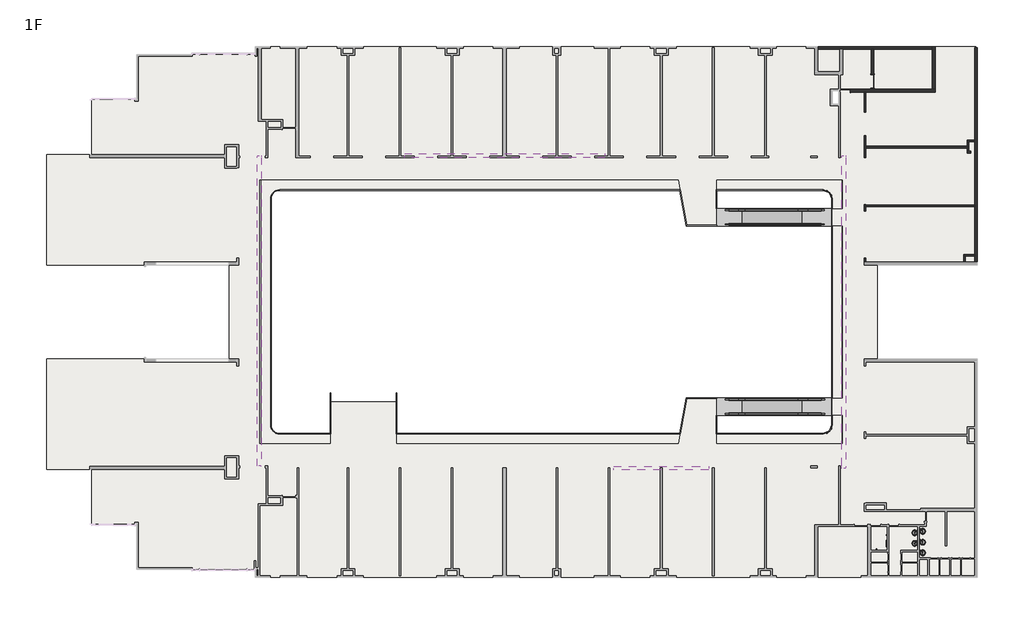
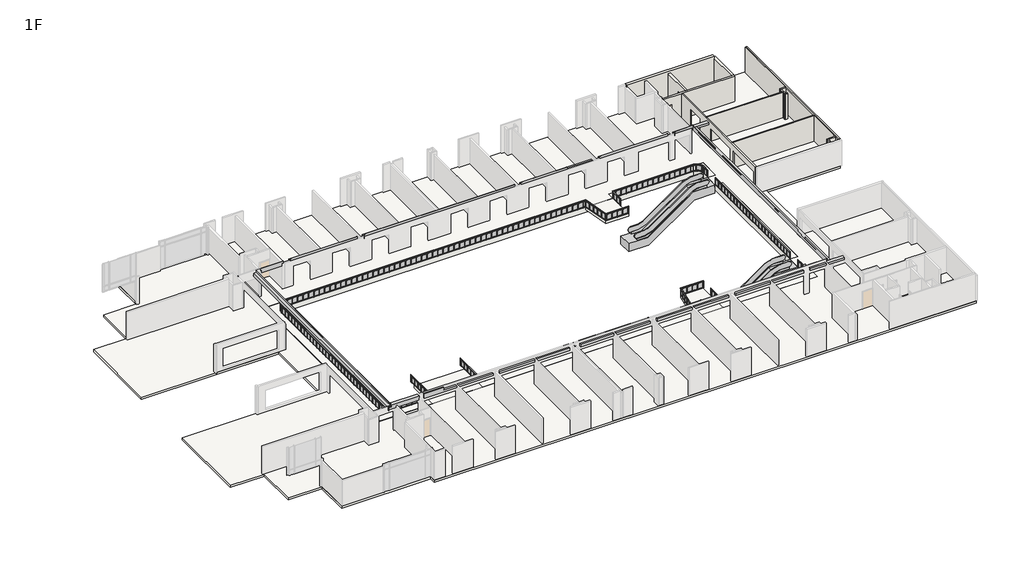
# One storey, part 5 of 5: 13 walls, 9 flow terminals, 5 railings, 4 beams, 2 proxies, 2 slabs, 1 door.
"""IFC4 building model written with IfcOpenShell, lengths in millimetres."""

from ifc_helpers import new_model, si_unit, point, frame, frame_2d, origin, place, context, project, spatial, polyline, circle_curve, trimmed, segment, composite_curve, outline, extrude, faceted_brep, transform, mapped, element, save
from components import escalator_escalator_gf_9d4ecd68, escalator_escalator_gf_c0f03a61, m_single_flush_d_1200x2150_ab82cfb8, grab_rail_horizontal_grab_bar_horizontal_3488bc9b, grab_rail_vertical_grab_rail_vertical_4faa361f, sink_bathroom_2_sink_bathroom_2_b4141ae8, sink_bathroom_2_sink_bathroom_2_ad220687, handrail_glass_panel_4cdfce9a, handrail_glass_panel_b0fdf184, handrail_glass_panel_57716c22, handrail_glass_panel_58cbfc2e, handrail_glass_panel_26aa19e9, handrail_glass_panel_251127b2, handrail_glass_panel_52af69f2

model = new_model("IFC4")

# Units and contexts
model_context = context("Model", 3, world=origin())
ifc_project = project(units=[si_unit("LENGTHUNIT", "METRE", prefix="MILLI")], contexts=[model_context])

# Site, building, storey
site = spatial("IfcSite", under=ifc_project)
building = spatial("IfcBuilding", under=site)
storey = spatial("IfcBuildingStorey", under=building, Name="1F", Elevation=4650.0)

# Beams
placement = place(None, origin())
element("IfcBeam", 1, ObjectType="M_Concrete-Rectangular Beam : 350 x 550mm", at=placement, inside=storey, context=model_context, shape_type="Brep", body=[
    faceted_brep([(28787.4134101, 11409.3851347, 8100.0), (28787.4134101, 11397.3851347, 8100.0), (30974.4134101, 11397.3851347, 8100.0), (30974.4134101, 11409.3851347, 8100.0), (28787.4134101, 11397.3851347, 7550.0), (30962.4134101, 11397.3851347, 7550.0), (31312.4134101, 11397.3851347, 7550.0), (32787.4134101, 11397.3851347, 7550.0), (32787.4134101, 11397.3851347, 7825.0), (31312.4134101, 11397.3851347, 7825.0), (30974.4134101, 11397.3851347, 7825.0), (30974.4134101, 11397.3851347, 8025.0), (28787.4134101, 11747.3851347, 7550.0), (32787.4134101, 11747.3851347, 7550.0), (28787.4134101, 11747.3851347, 7825.0), (32787.4134101, 11747.3851347, 7825.0), (28787.4134101, 11409.3851347, 7825.0), (30974.4134101, 11409.3851347, 7825.0)], [[[0, 1, 2, 3]], [[1, 4, 5, 6, 7, 8, 9, 10, 11, 2]], [[4, 12, 13, 7, 6, 5]], [[13, 12, 14, 15]], [[4, 1, 0, 16, 14, 12]], [[7, 13, 15, 8]], [[17, 3, 2, 11, 10]], [[16, 17, 10, 9, 8, 15, 14]], [[3, 17, 16, 0]]]),
    faceted_brep([(27987.4134101, 11397.3851347, 8100.0), (27987.4134101, 11397.3851347, 7550.0), (27987.4134101, 11747.3851347, 7550.0), (27987.4134101, 11747.3851347, 7825.0), (27987.4134101, 11409.3851347, 7825.0), (27987.4134101, 11409.3851347, 8100.0), (19957.4134101, 11397.3851347, 8100.0), (19957.4134101, 11409.3851347, 8100.0), (19957.4134101, 11397.3851347, 7550.0), (19957.4134101, 11747.3851347, 7550.0), (19957.4134101, 11747.3851347, 7825.0), (19957.4134101, 11409.3851347, 7825.0)], [[[0, 1, 2, 3, 4, 5]], [[6, 0, 5, 7]], [[1, 0, 6, 8]], [[2, 1, 8, 9]], [[2, 9, 10, 3]], [[8, 6, 7, 11, 10, 9]], [[4, 11, 7, 5]], [[11, 4, 3, 10]]]),
    faceted_brep([(19157.4134101, 11397.3851347, 7550.0), (19157.4134101, 11747.3851347, 7550.0), (19157.4134101, 11747.3851347, 7825.0), (19157.4134101, 11397.3851347, 7825.0), (10727.4134101, 11409.3851347, 8100.0), (10727.4134101, 11397.3851347, 8100.0), (16104.74274, 11397.3851347, 8100.0), (16102.6351768, 11409.3851347, 8100.0), (10727.4134101, 11397.3851347, 7550.0), (16104.74274, 11397.3851347, 7825.0), (10727.4134101, 11747.3851347, 7550.0), (10727.4134101, 11747.3851347, 7825.0), (10727.4134101, 11409.3851347, 7825.0), (16102.6351768, 11409.3851347, 7825.0)], [[[0, 1, 2, 3]], [[4, 5, 6, 7]], [[8, 0, 3, 9, 6, 5]], [[1, 0, 8, 10]], [[1, 10, 11, 2]], [[8, 5, 4, 12, 11, 10]], [[7, 13, 12, 4]], [[13, 7, 6, 9]], [[13, 9, 3, 2, 11, 12]]]),
    faceted_brep([(9927.4134101, 11397.3851347, 8100.0), (9927.4134101, 11397.3851347, 7550.0), (9927.4134101, 11747.3851347, 7550.0), (9927.4134101, 11747.3851347, 7825.0), (9927.4134101, 11409.3851347, 7825.0), (9927.4134101, 11409.3851347, 8100.0), (-7807.5865899, 11397.3851347, 8100.0), (-7807.5865899, 11409.3851347, 8100.0), (-7807.5865899, 11397.3851347, 7550.0), (-7807.5865899, 11747.3851347, 7550.0), (-7807.5865899, 11747.3851347, 7825.0), (-7807.5865899, 11409.3851347, 7825.0)], [[[0, 1, 2, 3, 4, 5]], [[6, 0, 5, 7]], [[1, 0, 6, 8]], [[2, 1, 8, 9]], [[2, 9, 10, 3]], [[8, 6, 7, 11, 10, 9]], [[11, 4, 3, 10]], [[4, 11, 7, 5]]]),
    faceted_brep([(-8607.5865899, 11397.3851347, 8100.0), (-8607.5865899, 11397.3851347, 7550.0), (-8607.5865899, 11747.3851347, 7550.0), (-8607.5865899, 11747.3851347, 7825.0), (-8607.5865899, 11409.3851347, 7825.0), (-8607.5865899, 11409.3851347, 8100.0), (-16522.5865899, 11397.3851347, 8100.0), (-16522.5865899, 11409.3851347, 8100.0), (-16522.5865899, 11397.3851347, 7550.0), (-16522.5865899, 11747.3851347, 7550.0), (-16522.5865899, 11747.3851347, 7825.0), (-16522.5865899, 11409.3851347, 7825.0)], [[[0, 1, 2, 3, 4, 5]], [[6, 0, 5, 7]], [[1, 0, 6, 8]], [[2, 1, 8, 9]], [[2, 9, 10, 3]], [[8, 6, 7, 11, 10, 9]], [[11, 4, 3, 10]], [[4, 11, 7, 5]]]),
    faceted_brep([(-17322.5865899, 11397.3851347, 8100.0), (-17322.5865899, 11397.3851347, 7550.0), (-17322.5865899, 11747.3851347, 7550.0), (-17322.5865899, 11747.3851347, 7825.0), (-17322.5865899, 11409.3851347, 7825.0), (-17322.5865899, 11409.3851347, 8100.0), (-20551.0865899, 11409.3851347, 8100.0), (-20551.0865899, 11397.3851347, 8100.0), (-20551.0865899, 11397.3851347, 8025.0), (-20551.0865899, 11397.3851347, 7825.0), (-20887.5865899, 11397.3851347, 7825.0), (-22525.5865899, 11397.3851347, 7825.0), (-22525.5865899, 11397.3851347, 7550.0), (-20887.5865899, 11397.3851347, 7550.0), (-20537.5865899, 11397.3851347, 7550.0), (-22525.5865899, 11747.3851347, 7550.0), (-22525.5865899, 11747.3851347, 7825.0), (-20551.0865899, 11409.3851347, 7825.0)], [[[0, 1, 2, 3, 4, 5]], [[0, 5, 6, 7]], [[1, 0, 7, 8, 9, 10, 11, 12, 13, 14]], [[2, 1, 14, 13, 12, 15]], [[2, 15, 16, 3]], [[12, 11, 16, 15]], [[9, 17, 4, 3, 16, 11, 10]], [[6, 17, 9, 8, 7]], [[17, 6, 5, 4]]]),
])
element("IfcBeam", 2, ObjectType="M_Concrete-Rectangular Beam : 350 x 550mm", at=placement, inside=storey, context=model_context, shape_type="Brep", body=[
    faceted_brep([(30962.4134101, -15972.6148653, 8025.0), (30974.4134101, -15972.6148653, 8025.0), (30974.4134101, -11484.6148653, 8025.0), (30962.4134101, -11484.6148653, 8025.0), (30962.4134101, 11572.3851347, 7475.0), (30962.4134101, 11397.3851347, 7475.0), (30962.4134101, -15972.6148653, 7475.0), (30962.4134101, -16147.6148653, 7475.0), (30962.4134101, -16147.6148653, 7550.0), (30962.4134101, -15972.6148653, 7550.0), (30962.4134101, -11484.6148653, 7825.0), (30962.4134101, -9934.6148653, 7825.0), (30962.4134101, -9934.6148653, 8025.0), (30962.4134101, 5335.3851347, 8025.0), (30962.4134101, 5335.3851347, 7825.0), (30962.4134101, 6885.3851347, 7825.0), (30962.4134101, 6885.3851347, 8025.0), (30962.4134101, 11397.3851347, 8025.0), (30962.4134101, 11397.3851347, 7550.0), (30962.4134101, 11572.3851347, 7550.0), (31312.4134101, 11572.3851347, 7475.0), (31312.4134101, -16147.6148653, 7475.0), (31312.4134101, 11572.3851347, 7550.0), (31312.4134101, 11397.3851347, 7550.0), (31312.4134101, 11397.3851347, 7825.0), (31312.4134101, -15972.6148653, 7825.0), (31312.4134101, -15972.6148653, 7550.0), (31312.4134101, -16147.6148653, 7550.0), (30974.4134101, 11397.3851347, 8025.0), (30974.4134101, 11397.3851347, 7825.0), (30974.4134101, -15972.6148653, 7825.0), (30974.4134101, 5335.3851347, 7825.0), (30974.4134101, -9934.6148653, 7825.0), (30974.4134101, -11484.6148653, 7825.0), (30974.4134101, 6885.3851347, 7825.0), (30974.4134101, -9934.6148653, 8025.0), (30974.4134101, 5335.3851347, 8025.0), (30974.4134101, 6885.3851347, 8025.0)], [[[0, 1, 2, 3]], [[4, 5, 6, 7, 8, 9, 0, 3, 10, 11, 12, 13, 14, 15, 16, 17, 18, 19]], [[7, 6, 5, 4, 20, 21]], [[21, 20, 22, 23, 24, 25, 26, 27]], [[20, 4, 19, 22]], [[7, 21, 27, 8]], [[23, 18, 17, 28, 29, 24]], [[18, 23, 22, 19]], [[9, 26, 25, 30, 1, 0]], [[26, 9, 8, 27]], [[31, 32, 11, 10, 33, 30, 25, 24, 29, 34, 15, 14]], [[30, 33, 2, 1]], [[33, 10, 3, 2]], [[11, 32, 35, 12]], [[32, 31, 36, 35]], [[31, 14, 13, 36]], [[15, 34, 37, 16]], [[34, 29, 28, 37]], [[13, 12, 35, 36]], [[28, 17, 16, 37]]]),
])
element("IfcBeam", 3, ObjectType="M_Concrete-Rectangular Beam : 350 x 550mm", at=placement, inside=storey, context=model_context, shape_type="Brep", body=[
    faceted_brep([(32769.9134101, -16322.6148653, 7550.0), (32769.9134101, -15972.6148653, 7550.0), (32769.9134101, -15972.6148653, 7825.0), (32769.9134101, -16322.6148653, 7825.0), (28787.4134101, -15972.6148653, 8100.0), (28787.4134101, -15972.6148653, 7550.0), (28787.4134101, -16322.6148653, 7550.0), (28787.4134101, -16322.6148653, 7825.0), (28787.4134101, -15984.6148653, 7825.0), (28787.4134101, -15984.6148653, 8100.0), (30974.4134101, -15984.6148653, 8100.0), (30974.4134101, -15972.6148653, 8100.0), (31312.4134101, -15972.6148653, 7550.0), (30962.4134101, -15972.6148653, 7550.0), (30974.4134101, -15972.6148653, 8025.0), (30974.4134101, -15972.6148653, 7825.0), (31312.4134101, -15972.6148653, 7825.0), (30974.4134101, -15984.6148653, 7825.0)], [[[0, 1, 2, 3]], [[4, 5, 6, 7, 8, 9]], [[4, 9, 10, 11]], [[1, 12, 13, 5, 4, 11, 14, 15, 16, 2]], [[1, 0, 6, 5, 13, 12]], [[6, 0, 3, 7]], [[10, 17, 15, 14, 11]], [[15, 17, 8, 7, 3, 2, 16]], [[17, 10, 9, 8]]]),
    faceted_brep([(-17322.5865899, -15972.6148653, 8100.0), (-20537.5865899, -15972.6148653, 8100.0), (-20551.0865899, -15986.1148653, 8100.0), (-20551.0865899, -16322.6148653, 8100.0), (-17322.5865899, -16322.6148653, 8100.0), (-20537.5865899, -15972.6148653, 7550.0), (-17322.5865899, -15972.6148653, 7550.0), (-20887.5865899, -16322.6148653, 7550.0), (-17322.5865899, -16322.6148653, 7550.0), (-20551.0865899, -16322.6148653, 7825.0), (-20887.5865899, -16322.6148653, 7825.0), (-20667.5865899, -16102.6148653, 7825.0), (-20551.0865899, -15986.1148653, 7825.0), (-20551.0865899, -15986.1148653, 8025.0)], [[[0, 1, 2, 3, 4]], [[5, 1, 0, 6]], [[7, 5, 6, 8]], [[7, 8, 4, 3, 9, 10]], [[1, 5, 7, 10, 11, 12, 13, 2]], [[0, 4, 8, 6]], [[9, 12, 11, 10]], [[12, 9, 3, 2, 13]]]),
    faceted_brep([(27987.4134101, -15972.6148653, 7550.0), (27987.4134101, -15972.6148653, 8100.0), (27987.4134101, -15984.6148653, 8100.0), (27987.4134101, -15984.6148653, 7825.0), (27987.4134101, -16322.6148653, 7825.0), (27987.4134101, -16322.6148653, 7550.0), (19957.4134101, -15972.6148653, 8100.0), (19957.4134101, -15972.6148653, 7550.0), (19957.4134101, -16322.6148653, 7550.0), (19957.4134101, -16322.6148653, 7825.0), (19957.4134101, -15984.6148653, 7825.0), (19957.4134101, -15984.6148653, 8100.0)], [[[0, 1, 2, 3, 4, 5]], [[6, 7, 8, 9, 10, 11]], [[1, 6, 11, 2]], [[1, 0, 7, 6]], [[0, 5, 8, 7]], [[8, 5, 4, 9]], [[10, 3, 2, 11]], [[3, 10, 9, 4]]]),
    faceted_brep([(19157.4134101, -16322.6148653, 7550.0), (19157.4134101, -15972.6148653, 7550.0), (19157.4134101, -15972.6148653, 7825.0), (19157.4134101, -16322.6148653, 7825.0), (10727.4134101, -15972.6148653, 8100.0), (10727.4134101, -15972.6148653, 7550.0), (10727.4134101, -16322.6148653, 7550.0), (10727.4134101, -16322.6148653, 7825.0), (10727.4134101, -15984.6148653, 7825.0), (10727.4134101, -15984.6148653, 8100.0), (16102.6351768, -15984.6148653, 8100.0), (16104.7511006, -15972.6148653, 8100.0), (16104.7511006, -15972.6148653, 7825.0), (16102.6351768, -15984.6148653, 7825.0)], [[[0, 1, 2, 3]], [[4, 5, 6, 7, 8, 9]], [[4, 9, 10, 11]], [[1, 5, 4, 11, 12, 2]], [[1, 0, 6, 5]], [[6, 0, 3, 7]], [[10, 13, 12, 11]], [[12, 13, 8, 7, 3, 2]], [[13, 10, 9, 8]]]),
    faceted_brep([(9927.4134101, -15972.6148653, 7550.0), (9927.4134101, -15972.6148653, 8100.0), (9927.4134101, -15984.6148653, 8100.0), (9927.4134101, -15984.6148653, 7825.0), (9927.4134101, -16322.6148653, 7825.0), (9927.4134101, -16322.6148653, 7550.0), (1697.4134101, -15972.6148653, 8100.0), (1697.4134101, -15972.6148653, 7550.0), (1697.4134101, -16322.6148653, 7550.0), (1697.4134101, -16322.6148653, 7825.0), (1697.4134101, -15984.6148653, 7825.0), (1697.4134101, -15984.6148653, 8100.0)], [[[0, 1, 2, 3, 4, 5]], [[6, 7, 8, 9, 10, 11]], [[1, 6, 11, 2]], [[1, 0, 7, 6]], [[0, 5, 8, 7]], [[8, 5, 4, 9]], [[3, 10, 9, 4]], [[10, 3, 2, 11]]]),
    faceted_brep([(422.4134101, -15972.6148653, 7550.0), (422.4134101, -15972.6148653, 8100.0), (422.4134101, -15984.6148653, 8100.0), (422.4134101, -15984.6148653, 7825.0), (422.4134101, -16322.6148653, 7825.0), (422.4134101, -16322.6148653, 7550.0), (-7807.5865899, -15972.6148653, 8100.0), (-7807.5865899, -15972.6148653, 7550.0), (-7807.5865899, -16322.6148653, 7550.0), (-7807.5865899, -16322.6148653, 7825.0), (-7807.5865899, -15984.6148653, 7825.0), (-7807.5865899, -15984.6148653, 8100.0)], [[[0, 1, 2, 3, 4, 5]], [[6, 7, 8, 9, 10, 11]], [[1, 6, 11, 2]], [[1, 0, 7, 6]], [[0, 5, 8, 7]], [[8, 5, 4, 9]], [[10, 3, 2, 11]], [[3, 10, 9, 4]]]),
    faceted_brep([(1022.4134101, -15972.6148653, 8100.0), (1022.4134101, -15972.6148653, 7550.0), (1022.4134101, -16322.6148653, 7550.0), (1022.4134101, -16322.6148653, 7825.0), (1022.4134101, -15984.6148653, 7825.0), (1022.4134101, -15984.6148653, 8100.0), (1097.4134101, -15972.6148653, 8100.0), (1097.4134101, -15984.6148653, 8100.0), (1097.4134101, -15972.6148653, 7550.0), (1097.4134101, -16322.6148653, 7550.0), (1097.4134101, -16322.6148653, 7825.0), (1097.4134101, -15984.6148653, 7825.0)], [[[0, 1, 2, 3, 4, 5]], [[6, 0, 5, 7]], [[1, 0, 6, 8]], [[2, 1, 8, 9]], [[2, 9, 10, 3]], [[8, 6, 7, 11, 10, 9]], [[11, 4, 3, 10]], [[4, 11, 7, 5]]]),
    faceted_brep([(-8607.5865899, -16322.6148653, 7550.0), (-8607.5865899, -15972.6148653, 7550.0), (-8607.5865899, -15972.6148653, 7825.0), (-8607.5865899, -16322.6148653, 7825.0), (-16722.5865899, -16322.6148653, 8100.0), (-16722.5865899, -15972.6148653, 8100.0), (-16722.5865899, -15972.6148653, 7550.0), (-16722.5865899, -16322.6148653, 7550.0), (-14412.5865899, -16322.6148653, 8100.0), (-14412.5865899, -15972.6148653, 8100.0), (-14412.5865899, -15972.6148653, 7825.0), (-14412.5865899, -16322.6148653, 7825.0)], [[[0, 1, 2, 3]], [[4, 5, 6, 7]], [[5, 4, 8, 9]], [[1, 6, 5, 9, 10, 2]], [[1, 0, 7, 6]], [[7, 0, 3, 11, 8, 4]], [[11, 10, 9, 8]], [[10, 11, 3, 2]]]),
])
element("IfcBeam", 4, ObjectType="M_Concrete-Rectangular Beam : 350 x 550mm", at=placement, inside=storey, context=model_context, shape_type="Brep", body=[
    faceted_brep([(-20537.5865899, -15972.6148653, 8025.0), (-20537.5865899, 11397.3851347, 8025.0), (-20551.0865899, 11397.3851347, 8025.0), (-20551.0865899, -15986.1148653, 8025.0), (-20537.5865899, 11572.3851347, 7475.0), (-20537.5865899, 11572.3851347, 7550.0), (-20537.5865899, 11397.3851347, 7550.0), (-20537.5865899, -15972.6148653, 7825.0), (-20537.5865899, -15960.6148653, 7825.0), (-20537.5865899, -15960.6148653, 7475.0), (-20537.5865899, 11397.3851347, 7475.0), (-20887.5865899, 11572.3851347, 7475.0), (-20887.5865899, -15960.6148653, 7475.0), (-20887.5865899, 11572.3851347, 7550.0), (-20887.5865899, -15960.6148653, 7825.0), (-20887.5865899, 11397.3851347, 7825.0), (-20887.5865899, 11397.3851347, 7550.0), (-20551.0865899, 11397.3851347, 7825.0), (-20551.0865899, -15960.6148653, 7825.0), (-20551.0865899, -15986.1148653, 7825.0)], [[[0, 1, 2, 3]], [[4, 5, 6, 1, 0, 7, 8, 9, 10]], [[11, 4, 10, 9, 12]], [[13, 11, 12, 14, 15, 16]], [[4, 11, 13, 5]], [[6, 16, 15, 17, 2, 1]], [[16, 6, 5, 13]], [[8, 18, 14, 12, 9]], [[18, 8, 7, 19]], [[17, 18, 19, 3, 2]], [[7, 0, 3, 19]], [[18, 17, 15, 14]]]),
    faceted_brep([(-20887.5865899, -16322.6148653, 7550.0), (-20887.5865899, -16322.6148653, 7475.0), (-20667.5865899, -16102.6148653, 7475.0), (-20667.5865899, -16102.6148653, 7825.0), (-20887.5865899, -16322.6148653, 7825.0), (-20887.5865899, -16102.6148653, 7475.0), (-20887.5865899, -16102.6148653, 7825.0)], [[[0, 1, 2, 3, 4]], [[2, 5, 6, 3]], [[2, 1, 5]], [[6, 4, 3]], [[1, 0, 4, 6, 5]]]),
])

# Proxies
escalator_escalator_gf_shape = escalator_escalator_gf_9d4ecd68(model_context)
element("IfcBuildingElementProxy", 5, Name="ESCALATOR : ESCALATOR-GF", ObjectType="ESCALATOR : ESCALATOR-GF", at=placement, inside=storey, context=model_context, shape_type="MappedRepresentation", body=[
    mapped(escalator_escalator_gf_shape, transform((31506.3835332, 6122.3851347, 400.0), x_axis=(1.0, 0.0, 0.0), y_axis=(0.0, 1.0, 0.0), z_axis=(0.0, 0.0, 1.0))),
])
escalator_escalator_gf_2_shape = escalator_escalator_gf_c0f03a61(model_context)
element("IfcBuildingElementProxy", 6, Name="ESCALATOR : ESCALATOR-GF", ObjectType="ESCALATOR : ESCALATOR-GF", at=placement, inside=storey, context=model_context, shape_type="MappedRepresentation", body=[
    mapped(escalator_escalator_gf_2_shape, transform((31506.3835332, -10697.6148653, 400.0), x_axis=(1.0, 0.0, 0.0), y_axis=(0.0, 1.0, 0.0), z_axis=(0.0, 0.0, 1.0))),
])

# Door
m_single_flush_d_1200x2150_shape = m_single_flush_d_1200x2150_ab82cfb8(model_context)
element("IfcDoor", 7, ObjectType="M_Single-Flush : D-1200x2150", at=placement, inside=storey, context=model_context, shape_type="MappedRepresentation", body=[
    mapped(m_single_flush_d_1200x2150_shape, transform((33670.9134101, 18167.3851347, 4650.0), x_axis=(0.0, -1.0, 0.0), y_axis=(1.0, 0.0, 0.0), z_axis=(0.0, 0.0, 1.0))),
])

# Flow terminals
grab_rail_horizontal_grab_bar_horizontal_shape = grab_rail_horizontal_grab_bar_horizontal_3488bc9b(model_context)
element("IfcFlowTerminal", 8, ObjectType="Grab Rail - Horizontal : Grab Bar Horizontal", at=placement, inside=storey, context=model_context, shape_type="MappedRepresentation", body=[
    mapped(grab_rail_horizontal_grab_bar_horizontal_shape, transform((34992.4134101, -23724.4105318, 4650.0), x_axis=(0.0, -1.0, 0.0), y_axis=(1.0, 0.0, 0.0), z_axis=(0.0, 0.0, 1.0))),
])
grab_rail_vertical_grab_rail_vertical_shape = grab_rail_vertical_grab_rail_vertical_4faa361f(model_context)
element("IfcFlowTerminal", 9, ObjectType="Grab Rail - Vertical : Grab Rail Vertical", at=placement, inside=storey, context=model_context, shape_type="MappedRepresentation", body=[
    mapped(grab_rail_vertical_grab_rail_vertical_shape, transform((33166.6177436, -23422.6148653, 4650.0), x_axis=(-1.0, 0.0, 0.0), y_axis=(0.0, -1.0, 0.0), z_axis=(0.0, 0.0, 1.0))),
])
element("IfcFlowTerminal", 10, ObjectType="Grab Rail - Vertical : Grab Rail Vertical", at=placement, inside=storey, context=model_context, shape_type="MappedRepresentation", body=[
    mapped(grab_rail_vertical_grab_rail_vertical_shape, transform((34992.4134101, -23424.4105318, 4650.0), x_axis=(0.0, -1.0, 0.0), y_axis=(1.0, 0.0, 0.0), z_axis=(0.0, 0.0, 1.0))),
])
element("IfcFlowTerminal", 11, ObjectType="Grab Rail - Vertical : Grab Rail Vertical", at=placement, inside=storey, context=model_context, shape_type="MappedRepresentation", body=[
    mapped(grab_rail_vertical_grab_rail_vertical_shape, transform((34992.4134101, -22924.4105318, 4650.0), x_axis=(0.0, -1.0, 0.0), y_axis=(1.0, 0.0, 0.0), z_axis=(0.0, 0.0, 1.0))),
])
sink_bathroom_2_sink_bathroom_2_shape = sink_bathroom_2_sink_bathroom_2_b4141ae8(model_context)
element("IfcFlowTerminal", 12, ObjectType="Sink - Bathroom (2) : Sink - Bathroom (2)", at=placement, inside=storey, context=model_context, shape_type="MappedRepresentation", body=[
    mapped(sink_bathroom_2_sink_bathroom_2_shape, transform((37822.4134101, -22732.4647318, 4650.0), x_axis=(0.0, 1.0, 0.0), y_axis=(-1.0, 0.0, 0.0), z_axis=(0.0, 0.0, 1.0))),
])
element("IfcFlowTerminal", 13, ObjectType="Sink - Bathroom (2) : Sink - Bathroom (2)", at=placement, inside=storey, context=model_context, shape_type="MappedRepresentation", body=[
    mapped(sink_bathroom_2_sink_bathroom_2_shape, transform((37822.4134101, -21782.4647318, 4650.0), x_axis=(0.0, 1.0, 0.0), y_axis=(-1.0, 0.0, 0.0), z_axis=(0.0, 0.0, 1.0))),
])
element("IfcFlowTerminal", 14, ObjectType="Sink - Bathroom (2) : Sink - Bathroom (2)", at=placement, inside=storey, context=model_context, shape_type="MappedRepresentation", body=[
    mapped(sink_bathroom_2_sink_bathroom_2_shape, transform((37822.4134101, -23682.4647318, 4650.0), x_axis=(0.0, 1.0, 0.0), y_axis=(-1.0, 0.0, 0.0), z_axis=(0.0, 0.0, 1.0))),
])
sink_bathroom_2_sink_bathroom_2_2_shape = sink_bathroom_2_sink_bathroom_2_ad220687(model_context)
element("IfcFlowTerminal", 15, ObjectType="Sink - Bathroom (2) : Sink - Bathroom (2)", at=placement, inside=storey, context=model_context, shape_type="MappedRepresentation", body=[
    mapped(sink_bathroom_2_sink_bathroom_2_2_shape, transform((37707.4134101, -22859.9647318, 4650.0), x_axis=(0.0, 1.0, 0.0), y_axis=(-1.0, 0.0, 0.0), z_axis=(0.0, 0.0, 1.0))),
])
element("IfcFlowTerminal", 16, ObjectType="Sink - Bathroom (2) : Sink - Bathroom (2)", at=placement, inside=storey, context=model_context, shape_type="MappedRepresentation", body=[
    mapped(sink_bathroom_2_sink_bathroom_2_2_shape, transform((37707.4134101, -21909.9647318, 4650.0), x_axis=(0.0, 1.0, 0.0), y_axis=(-1.0, 0.0, 0.0), z_axis=(0.0, 0.0, 1.0))),
])

# Railings
handrail_glass_panel_shape = handrail_glass_panel_4cdfce9a(model_context)
handrail_glass_panel_2_shape = handrail_glass_panel_b0fdf184(model_context)
handrail_glass_panel_3_shape = handrail_glass_panel_57716c22(model_context)
element("IfcRailing", 17, ObjectType="Handrail - Glass Panel", at=placement, inside=storey, context=model_context, shape_type="MappedRepresentation", body=[
    mapped(handrail_glass_panel_shape, transform((0.0, 0.0, 0.0), x_axis=(1.0, 0.0, 0.0), y_axis=(0.0, 1.0, 0.0), z_axis=(0.0, 0.0, 1.0))),
    mapped(handrail_glass_panel_2_shape, transform((0.0, 0.0, 0.0), x_axis=(1.0, 0.0, 0.0), y_axis=(0.0, 1.0, 0.0), z_axis=(0.0, 0.0, 1.0))),
    mapped(handrail_glass_panel_3_shape, transform((0.0, 0.0, 0.0), x_axis=(1.0, 0.0, 0.0), y_axis=(0.0, 1.0, 0.0), z_axis=(0.0, 0.0, 1.0))),
])
handrail_glass_panel_4_shape = handrail_glass_panel_58cbfc2e(model_context)
element("IfcRailing", 18, ObjectType="Handrail - Glass Panel", at=placement, inside=storey, context=model_context, shape_type="MappedRepresentation", body=[
    mapped(handrail_glass_panel_4_shape, transform((0.0, 0.0, 0.0), x_axis=(1.0, 0.0, 0.0), y_axis=(0.0, 1.0, 0.0), z_axis=(0.0, 0.0, 1.0))),
])
handrail_glass_panel_5_shape = handrail_glass_panel_26aa19e9(model_context)
element("IfcRailing", 19, ObjectType="Handrail - Glass Panel", at=placement, inside=storey, context=model_context, shape_type="MappedRepresentation", body=[
    mapped(handrail_glass_panel_5_shape, transform((0.0, 0.0, 0.0), x_axis=(1.0, 0.0, 0.0), y_axis=(0.0, 1.0, 0.0), z_axis=(0.0, 0.0, 1.0))),
])
handrail_glass_panel_6_shape = handrail_glass_panel_251127b2(model_context)
element("IfcRailing", 20, ObjectType="Handrail - Glass Panel", at=placement, inside=storey, context=model_context, shape_type="MappedRepresentation", body=[
    mapped(handrail_glass_panel_6_shape, transform((0.0, 0.0, 0.0), x_axis=(1.0, 0.0, 0.0), y_axis=(0.0, 1.0, 0.0), z_axis=(0.0, 0.0, 1.0))),
])
handrail_glass_panel_7_shape = handrail_glass_panel_52af69f2(model_context)
element("IfcRailing", 21, ObjectType="Handrail - Glass Panel", at=placement, inside=storey, context=model_context, shape_type="MappedRepresentation", body=[
    mapped(handrail_glass_panel_7_shape, transform((0.0, 0.0, 0.0), x_axis=(1.0, 0.0, 0.0), y_axis=(0.0, 1.0, 0.0), z_axis=(0.0, 0.0, 1.0))),
])

# Slabs
element("IfcSlab", 22, ObjectType="Composite 225mm", at=placement, inside=storey, context=model_context, shape_type="Brep", body=[
    faceted_brep([(-21051.0865899, 21259.3851347, 4375.0), (42827.4134101, 21259.3851347, 4375.0), (42827.4134101, 1885.3851347, 4375.0), (34077.4134101, 1885.3851347, 4375.0), (34077.4134101, -6457.6148653, 4375.0), (42827.4134101, -6457.6148653, 4375.0), (42827.4134101, -25834.6148653, 4375.0), (-21051.0865899, -25834.6148653, 4375.0), (-21051.0865899, -25109.6148653, 4375.0), (-31549.5865899, -25109.6148653, 4375.0), (-31549.5865899, -21109.6148653, 4375.0), (-35549.5865899, -21109.6148653, 4375.0), (-35549.5865899, -16237.6148653, 4375.0), (-39549.5865899, -16237.6148653, 4375.0), (-39549.5865899, -6460.6148653, 4375.0), (-23370.5865899, -6460.6148653, 4375.0), (-23370.5865899, 1885.3851348, 4375.0), (-39549.5865899, 1885.3851348, 4375.0), (-39549.5865899, 11662.3851348, 4375.0), (-35549.5865899, 11662.3851348, 4375.0), (-35549.5865899, 16534.3851347, 4375.0), (-31549.5865899, 16534.3851347, 4375.0), (-31549.5865899, 20534.3851347, 4375.0), (-21051.0865899, 20534.3851347, 4375.0), (16458.2891382, 9385.3851347, 4375.0), (-20640.5865899, 9385.3851347, 4375.0), (-20640.5865899, -13960.6148653, 4375.0), (-14412.5865899, -13960.6148653, 4375.0), (-14412.5865899, -10230.6148653, 4375.0), (-8492.5865899, -10230.6148653, 4375.0), (-8492.5865899, -13960.6148653, 4375.0), (16458.2891382, -13960.6148653, 4375.0), (17172.4134101, -9910.6148653, 4375.0), (19872.4134101, -9910.6148653, 4375.0), (19872.4134101, -13960.6148653, 4375.0), (30962.4134101, -13960.6148653, 4375.0), (30977.4134101, -13960.6148653, 4375.0), (30977.4134101, -11460.6148653, 4375.0), (30962.4134101, -11460.6148653, 4375.0), (30037.2682249, -11460.6148653, 4375.0), (30037.2682249, -9910.6148653, 4375.0), (30962.4134101, -9910.6148653, 4375.0), (30977.4134101, -9910.6148653, 4375.0), (30977.4134101, 5335.3851347, 4375.0), (30962.4134101, 5335.3851347, 4375.0), (30037.268225, 5335.3851347, 4375.0), (30037.268225, 6885.3851347, 4375.0), (30962.4134101, 6885.3851347, 4375.0), (30977.4134101, 6885.3851347, 4375.0), (30977.4134101, 9385.3851347, 4375.0), (30962.4134101, 9385.3851347, 4375.0), (19872.4134101, 9385.3851347, 4375.0), (19872.4134101, 5335.3851347, 4375.0), (17172.4134101, 5335.3851347, 4375.0), (30672.4134101, 17337.3851347, 4375.0), (30072.4134101, 17337.3851347, 4375.0), (30072.4134101, 16137.3851347, 4375.0), (30672.4134101, 16137.3851347, 4375.0), (42827.4134101, 21259.3851347, 4650.0), (-21051.0865899, 21259.3851347, 4650.0), (-21051.0865899, 20534.3851347, 4650.0), (-31549.5865899, 20534.3851347, 4650.0), (-31549.5865899, 16534.3851347, 4650.0), (-35549.5865899, 16534.3851347, 4650.0), (-35549.5865899, 11662.3851348, 4650.0), (-39549.5865899, 11662.3851348, 4650.0), (-39549.5865899, 1885.3851348, 4650.0), (-23370.5865899, 1885.3851348, 4650.0), (-23370.5865899, -6460.6148653, 4650.0), (-39549.5865899, -6460.6148653, 4650.0), (-39549.5865899, -16237.6148653, 4650.0), (-35549.5865899, -16237.6148653, 4650.0), (-35549.5865899, -21109.6148653, 4650.0), (-31549.5865899, -21109.6148653, 4650.0), (-31549.5865899, -25109.6148653, 4650.0), (-21051.0865899, -25109.6148653, 4650.0), (-21051.0865899, -25834.6148653, 4650.0), (42827.4134101, -25834.6148653, 4650.0), (42827.4134101, -6457.6148653, 4650.0), (34077.4134101, -6457.6148653, 4650.0), (34077.4134101, 1885.3851347, 4650.0), (42827.4134101, 1885.3851347, 4650.0), (-20640.5865899, 9385.3851347, 4650.0), (16458.2891382, 9385.3851347, 4650.0), (17172.4134101, 5335.3851347, 4650.0), (19872.4134101, 5335.3851347, 4650.0), (19872.4134101, 9385.3851347, 4650.0), (30977.4134101, 9385.3851347, 4650.0), (30977.4134101, 6885.3851347, 4650.0), (30037.268225, 6885.3851347, 4650.0), (30037.268225, 5335.3851347, 4650.0), (30977.4134101, 5335.3851347, 4650.0), (30977.4134101, -9910.6148653, 4650.0), (30037.2682249, -9910.6148653, 4650.0), (30037.2682249, -11460.6148653, 4650.0), (30977.4134101, -11460.6148653, 4650.0), (30977.4134101, -13960.6148653, 4650.0), (19872.4134101, -13960.6148653, 4650.0), (19872.4134101, -9910.6148653, 4650.0), (17172.4134101, -9910.6148653, 4650.0), (16458.2891382, -13960.6148653, 4650.0), (-8492.5865899, -13960.6148653, 4650.0), (-8492.5865899, -10230.6148653, 4650.0), (-14412.5865899, -10230.6148653, 4650.0), (-14412.5865899, -13960.6148653, 4650.0), (-20640.5865899, -13960.6148653, 4650.0), (30072.4134101, 17337.3851347, 4650.0), (30672.4134101, 17337.3851347, 4650.0), (30672.4134101, 16137.3851347, 4650.0), (30072.4134101, 16137.3851347, 4650.0), (30977.4134101, -13960.6148653, 4575.0), (30977.4134101, -11460.6148653, 4575.0), (30977.4134101, -9910.6148653, 4575.0), (30977.4134101, 5335.3851347, 4575.0), (30977.4134101, 6885.3851347, 4575.0), (30977.4134101, 9385.3851347, 4575.0)], [[[0, 1, 2, 3, 4, 5, 6, 7, 8, 9, 10, 11, 12, 13, 14, 15, 16, 17, 18, 19, 20, 21, 22, 23], [24, 25, 26, 27, 28, 29, 30, 31, 32, 33, 34, 35, 36, 37, 38, 39, 40, 41, 42, 43, 44, 45, 46, 47, 48, 49, 50, 51, 52, 53], [54, 55, 56, 57]], [[58, 59, 60, 61, 62, 63, 64, 65, 66, 67, 68, 69, 70, 71, 72, 73, 74, 75, 76, 77, 78, 79, 80, 81], [82, 83, 84, 85, 86, 87, 88, 89, 90, 91, 92, 93, 94, 95, 96, 97, 98, 99, 100, 101, 102, 103, 104, 105], [106, 107, 108, 109]], [[1, 0, 59, 58]], [[2, 1, 58, 81]], [[3, 2, 81, 80]], [[4, 3, 80, 79]], [[5, 4, 79, 78]], [[6, 5, 78, 77]], [[7, 6, 77, 76]], [[8, 7, 76, 75]], [[9, 8, 75, 74]], [[10, 9, 74, 73]], [[11, 10, 73, 72]], [[12, 11, 72, 71]], [[13, 12, 71, 70]], [[14, 13, 70, 69]], [[15, 14, 69, 68]], [[16, 15, 68, 67]], [[17, 16, 67, 66]], [[18, 17, 66, 65]], [[19, 18, 65, 64]], [[20, 19, 64, 63]], [[21, 20, 63, 62]], [[22, 21, 62, 61]], [[23, 22, 61, 60]], [[0, 23, 60, 59]], [[25, 24, 83, 82]], [[26, 25, 82, 105]], [[27, 26, 105, 104]], [[28, 27, 104, 103]], [[29, 28, 103, 102]], [[30, 29, 102, 101]], [[31, 30, 101, 100]], [[32, 31, 100, 99]], [[33, 32, 99, 98]], [[34, 33, 98, 97]], [[36, 35, 34, 97, 96, 110]], [[37, 36, 110, 96, 95, 111]], [[39, 38, 37, 111, 95, 94]], [[40, 39, 94, 93]], [[42, 41, 40, 93, 92, 112]], [[43, 42, 112, 92, 91, 113]], [[45, 44, 43, 113, 91, 90]], [[46, 45, 90, 89]], [[48, 47, 46, 89, 88, 114]], [[49, 48, 114, 88, 87, 115]], [[51, 50, 49, 115, 87, 86]], [[52, 51, 86, 85]], [[53, 52, 85, 84]], [[24, 53, 84, 83]], [[54, 107, 106, 55]], [[55, 106, 109, 56]], [[56, 109, 108, 57]], [[107, 54, 57, 108]]]),
])
element("IfcSlab", 23, ObjectType="Composite 625mm", at=placement, inside=storey, context=model_context, shape_type="SweptSolid", body=[
    extrude(outline(polyline([(-20537.5865899, 9397.3851347), (30962.4134101, 9397.3851347), (30962.4134101, -13972.6148653), (-20537.5865899, -13972.6148653), (-20537.5865899, 9397.3851347)]), holes=[composite_curve([segment(trimmed(circle_curve(frame_2d((-18887.5865899, 7747.3851347)), 750.0), [point((-18887.5865899, 8497.3851347))], [point((-19637.5865899, 7747.3851347))], True, "CARTESIAN"), True, "CONTINUOUS"), segment(polyline([(-19637.5865899, 7747.3851347), (-19637.5865899, -12322.6148653)]), True, "CONTINUOUS"), segment(trimmed(circle_curve(frame_2d((-18887.5865899, -12322.6148653)), 750.0), [point((-19637.5865899, -12322.6148653))], [point((-18887.5865899, -13072.6148653))], True, "CARTESIAN"), True, "CONTINUOUS"), segment(polyline([(-18887.5865899, -13072.6148653), (29312.4134101, -13072.6148653)]), True, "CONTINUOUS"), segment(trimmed(circle_curve(frame_2d((29312.4134101, -12322.6148653)), 750.0), [point((29312.4134101, -13072.6148653))], [point((30062.4134101, -12322.6148653))], True, "CARTESIAN"), True, "CONTINUOUS"), segment(polyline([(30062.4134101, -12322.6148653), (30062.4134101, 7747.3851347)]), True, "CONTINUOUS"), segment(trimmed(circle_curve(frame_2d((29312.4134101, 7747.3851347)), 750.0), [point((30062.4134101, 7747.3851347))], [point((29312.4134101, 8497.3851347))], True, "CARTESIAN"), True, "CONTINUOUS"), segment(polyline([(29312.4134101, 8497.3851347), (-18887.5865899, 8497.3851347)]), True, "CONTINUOUS")], self_intersect=False)]), frame((0.0, 0.0, 4025.0), z_axis=(0.0, 0.0, 1.0), x_axis=(1.0, 0.0, 0.0)), (0.0, 0.0, 1.0), 625.0),
])

# Walls
element("IfcWall", 24, ObjectType="wall-115", at=placement, inside=storey, context=model_context, shape_type="SweptSolid", body=[
    extrude(outline(polyline([(42717.4134101, 7047.8851347), (33092.4134101, 7047.8851347), (33092.4134101, 7189.8851347), (42717.4134101, 7189.8851347), (42717.4134101, 7047.8851347)])), frame((0.0, 0.0, 4650.0), z_axis=(0.0, 0.0, 1.0), x_axis=(1.0, 0.0, 0.0)), (0.0, 0.0, 1.0), 3175.0),
])
element("IfcWall", 25, ObjectType="wall-115", at=placement, inside=storey, context=model_context, shape_type="SweptSolid", body=[
    extrude(outline(polyline([(42055.4134101, 12262.5507406), (33092.4134101, 12262.5507406), (33092.4134101, 12404.5507406), (42055.4134101, 12404.5507406), (42055.4134101, 12262.5507406)])), frame((0.0, 0.0, 4650.0), z_axis=(0.0, 0.0, 1.0), x_axis=(1.0, 0.0, 0.0)), (0.0, 0.0, 1.0), 3175.0),
])
element("IfcWall", 26, ObjectType="wall-115", at=placement, inside=storey, context=model_context, shape_type="Brep", body=[
    faceted_brep([(42055.4134101, 12827.8851347, 4650.0), (42197.4134101, 12827.8851347, 4650.0), (42717.4134101, 12827.8851347, 4650.0), (42717.4134101, 12827.8851347, 7825.0), (42197.4134101, 12827.8851347, 7825.0), (42055.4134101, 12827.8851347, 7825.0), (42055.4134101, 12969.8851347, 4650.0), (42055.4134101, 12969.8851347, 7825.0), (42717.4134101, 12969.8851347, 7825.0), (42717.4134101, 12969.8851347, 4650.0)], [[[0, 1, 2, 3, 4, 5]], [[6, 7, 8, 9]], [[2, 1, 0, 6, 9]], [[0, 5, 7, 6]], [[3, 2, 9, 8]], [[5, 4, 3, 8, 7]]]),
])
element("IfcWall", 27, ObjectType="wall-115", at=placement, inside=storey, context=model_context, shape_type="Brep", body=[
    faceted_brep([(42055.4134101, 12827.8851347, 4650.0), (42055.4134101, 12404.5507406, 4650.0), (42055.4134101, 12262.5507406, 4650.0), (42055.4134101, 11962.3851347, 4650.0), (42055.4134101, 11962.3851347, 7825.0), (42055.4134101, 12262.5507406, 7825.0), (42055.4134101, 12404.5507406, 7825.0), (42055.4134101, 12827.8851347, 7825.0), (42197.4134101, 12827.8851347, 4650.0), (42197.4134101, 12827.8851347, 7825.0), (42197.4134101, 11962.3851347, 7825.0), (42197.4134101, 11962.3851347, 4650.0)], [[[0, 1, 2, 3, 4, 5, 6, 7]], [[8, 9, 10, 11]], [[3, 2, 1, 0, 8, 11]], [[4, 3, 11, 10]], [[0, 7, 9, 8]], [[7, 6, 5, 4, 10, 9]]]),
])
element("IfcWall", 28, ObjectType="wall-115", at=placement, inside=storey, context=model_context, shape_type="Brep", body=[
    faceted_brep([(42055.4134101, 11820.3851347, 4650.0), (42362.4134101, 11820.3851347, 4650.0), (42362.4134101, 11820.3851347, 7825.0), (42055.4134101, 11820.3851347, 7825.0), (42055.4134101, 11962.3851347, 4650.0), (42055.4134101, 11962.3851347, 7825.0), (42197.4134101, 11962.3851347, 7825.0), (42362.4134101, 11962.3851347, 7825.0), (42362.4134101, 11962.3851347, 4650.0), (42197.4134101, 11962.3851347, 4650.0)], [[[0, 1, 2, 3]], [[4, 5, 6, 7, 8, 9]], [[1, 0, 4, 9, 8]], [[2, 1, 8, 7]], [[0, 3, 5, 4]], [[3, 2, 7, 6, 5]]]),
])
element("IfcWall", 29, ObjectType="wall-115", at=placement, inside=storey, context=model_context, shape_type="Brep", body=[
    faceted_brep([(42717.4134101, 2804.3851347, 4650.0), (41750.4134101, 2804.3851347, 4650.0), (41750.4134101, 2804.3851347, 7825.0), (42717.4134101, 2804.3851347, 7825.0), (42717.4134101, 2662.3851347, 4650.0), (42717.4134101, 2662.3851347, 7825.0), (41892.4134101, 2662.3851347, 7825.0), (41750.4134101, 2662.3851347, 7825.0), (41750.4134101, 2662.3851347, 4650.0), (41892.4134101, 2662.3851347, 4650.0)], [[[0, 1, 2, 3]], [[4, 5, 6, 7, 8, 9]], [[1, 0, 4, 9, 8]], [[0, 3, 5, 4]], [[2, 1, 8, 7]], [[3, 2, 7, 6, 5]]]),
])
element("IfcWall", 30, ObjectType="wall-115", at=placement, inside=storey, context=model_context, shape_type="SweptSolid", body=[
    extrude(outline(polyline([(41750.4134101, 2142.3851347), (41750.4134101, 2662.3851347), (41892.4134101, 2662.3851347), (41892.4134101, 2142.3851347), (41750.4134101, 2142.3851347)])), frame((0.0, 0.0, 4650.0), z_axis=(0.0, 0.0, 1.0), x_axis=(1.0, 0.0, 0.0)), (0.0, 0.0, 1.0), 3175.0),
])
element("IfcWall", 31, ObjectType="wall-115", at=placement, inside=storey, context=model_context, shape_type="Brep", body=[
    faceted_brep([(32950.4134101, 13356.1280057, 7050.0), (32950.4134101, 13356.1280057, 4650.0), (32950.4134101, 11397.3851347, 4650.0), (32950.4134101, 11397.3851347, 7050.0), (32950.4134101, 7247.3851347, 7050.0), (32950.4134101, 7247.3851347, 4650.0), (32950.4134101, 6647.3851347, 4650.0), (32950.4134101, 6647.3851347, 7050.0), (32950.4134101, 2497.3851347, 7050.0), (32950.4134101, 2497.3851347, 4650.0), (32950.4134101, 2142.3851347, 4650.0), (32950.4134101, 2142.3851347, 7825.0), (32950.4134101, 17207.3851348, 7825.0), (32950.4134101, 17207.3851348, 4650.0), (32950.4134101, 15437.9734756, 4650.0), (32950.4134101, 15437.9734756, 7050.0), (33092.4134101, 11397.3851347, 4650.0), (33092.4134101, 12262.5507406, 4650.0), (33092.4134101, 12404.5507406, 4650.0), (33092.4134101, 13356.1280057, 4650.0), (33092.4134101, 13356.1280057, 7050.0), (33092.4134101, 15437.9734756, 7050.0), (33092.4134101, 15437.9734756, 4650.0), (33092.4134101, 17207.3851348, 4650.0), (33092.4134101, 17207.3851348, 7825.0), (33092.4134101, 12404.5507406, 7825.0), (33092.4134101, 12262.5507406, 7825.0), (33092.4134101, 7189.8851347, 7825.0), (33092.4134101, 7047.8851347, 7825.0), (33092.4134101, 2142.3851347, 7825.0), (33092.4134101, 2142.3851347, 4650.0), (33092.4134101, 2497.3851347, 4650.0), (33092.4134101, 2497.3851347, 7050.0), (33092.4134101, 6647.3851347, 7050.0), (33092.4134101, 6647.3851347, 4650.0), (33092.4134101, 7047.8851347, 4650.0), (33092.4134101, 7189.8851347, 4650.0), (33092.4134101, 7247.3851347, 4650.0), (33092.4134101, 7247.3851347, 7050.0), (33092.4134101, 11397.3851347, 7050.0)], [[[0, 1, 2, 3, 4, 5, 6, 7, 8, 9, 10, 11, 12, 13, 14, 15]], [[16, 17, 18, 19, 20, 21, 22, 23, 24, 25, 26, 27, 28, 29, 30, 31, 32, 33, 34, 35, 36, 37, 38, 39]], [[30, 10, 9, 31]], [[6, 5, 37, 36, 35, 34]], [[2, 1, 19, 18, 17, 16]], [[14, 13, 23, 22]], [[11, 10, 30, 29]], [[13, 12, 24, 23]], [[12, 11, 29, 28, 27, 26, 25, 24]], [[7, 33, 32, 8]], [[8, 32, 31, 9]], [[33, 7, 6, 34]], [[39, 38, 4, 3]], [[16, 39, 3, 2]], [[38, 37, 5, 4]], [[21, 20, 0, 15]], [[22, 21, 15, 14]], [[20, 19, 1, 0]]]),
])
element("IfcWall", 32, ObjectType="wall-230", at=placement, inside=storey, context=model_context, shape_type="Brep", body=[
    faceted_brep([(39244.4134101, 17464.3851348, 7825.0), (39244.4134101, 17464.3851348, 4650.0), (38987.4134101, 17464.3851348, 4650.0), (33799.4134101, 17464.3851348, 4650.0), (33542.4134101, 17464.3851348, 4650.0), (31687.4134101, 17464.3851348, 4650.0), (31687.4134101, 17464.3851348, 6800.0), (30799.4134101, 17464.3851348, 6800.0), (30799.4134101, 17464.3851348, 7825.0), (33542.4134101, 17464.3851348, 7825.0), (33799.4134101, 17464.3851348, 7825.0), (38987.4134101, 17464.3851348, 7825.0), (39244.4134101, 17207.3851348, 4650.0), (39244.4134101, 17207.3851348, 7825.0), (33092.4134101, 17207.3851348, 7825.0), (32950.4134101, 17207.3851348, 7825.0), (30799.4134101, 17207.3851348, 7825.0), (30799.4134101, 17207.3851348, 6800.0), (31687.4134101, 17207.3851348, 6800.0), (31687.4134101, 17207.3851348, 4650.0), (32950.4134101, 17207.3851348, 4650.0), (33092.4134101, 17207.3851348, 4650.0)], [[[0, 1, 2, 3, 4, 5, 6, 7, 8, 9, 10, 11]], [[12, 13, 14, 15, 16, 17, 18, 19, 20, 21]], [[1, 12, 21, 20, 19, 5, 4, 3, 2]], [[16, 8, 7, 17]], [[1, 0, 13, 12]], [[0, 11, 10, 9, 8, 16, 15, 14, 13]], [[6, 18, 17, 7]], [[18, 6, 5, 19]]]),
])
element("IfcWall", 33, ObjectType="wall-230", at=placement, inside=storey, context=model_context, shape_type="Brep", body=[
    faceted_brep([(42974.4134101, 2142.3851347, 4650.0), (42974.4134101, 21132.3851347, 4650.0), (42974.4134101, 21132.3851347, 7825.0), (42974.4134101, 2142.3851347, 7825.0), (42717.4134101, 2142.3851347, 4650.0), (42717.4134101, 2142.3851347, 7825.0), (42717.4134101, 2662.3851347, 7825.0), (42717.4134101, 2804.3851347, 7825.0), (42717.4134101, 7047.8851347, 7825.0), (42717.4134101, 7189.8851347, 7825.0), (42717.4134101, 12827.8851347, 7825.0), (42717.4134101, 12969.8851347, 7825.0), (42717.4134101, 21132.3851347, 7825.0), (42717.4134101, 21132.3851347, 4650.0), (42717.4134101, 12969.8851347, 4650.0), (42717.4134101, 12827.8851347, 4650.0), (42717.4134101, 7189.8851347, 4650.0), (42717.4134101, 7047.8851347, 4650.0), (42717.4134101, 2804.3851347, 4650.0), (42717.4134101, 2662.3851347, 4650.0), (42824.4134101, 21132.3851347, 7825.0), (42824.4134101, 2142.3851347, 7825.0)], [[[0, 1, 2, 3]], [[4, 5, 6, 7, 8, 9, 10, 11, 12, 13, 14, 15, 16, 17, 18, 19]], [[1, 0, 4, 19, 18, 17, 16, 15, 14, 13]], [[2, 1, 13, 12, 20]], [[0, 3, 21, 5, 4]], [[3, 2, 20, 21]], [[20, 12, 11, 10, 9, 8, 7, 6, 5, 21]]]),
])
element("IfcWall", 34, ObjectType="wall-230", at=placement, inside=storey, context=model_context, shape_type="Brep", body=[
    faceted_brep([(39244.4134101, 17464.3851348, 4650.0), (39244.4134101, 21259.3851347, 4650.0), (39244.4134101, 21259.3851347, 7825.0), (39244.4134101, 17464.3851348, 7825.0), (38987.4134101, 17464.3851348, 4650.0), (38987.4134101, 17464.3851348, 7825.0), (38987.4134101, 21259.3851347, 7825.0), (38987.4134101, 21259.3851347, 4650.0), (38987.4134101, 21002.3851347, 4650.0)], [[[0, 1, 2, 3]], [[4, 5, 6, 7, 8]], [[1, 0, 4, 8, 7]], [[2, 1, 7, 6]], [[0, 3, 5, 4]], [[3, 2, 6, 5]]]),
])
element("IfcWall", 35, ObjectType="wall-230", at=placement, inside=storey, context=model_context, shape_type="SweptSolid", body=[
    extrude(outline(polyline([(17464.3851348, 4650.0), (17464.3851348, 7825.0), (21002.3851347, 7825.0), (21002.3851347, 4650.0), (18767.3851347, 4650.0), (18767.3851347, 6800.0), (17567.3851347, 6800.0), (17567.3851347, 4650.0), (17464.3851348, 4650.0)])), frame((33542.4134101, 0.0, 0.0), z_axis=(1.0, 0.0, 0.0), x_axis=(0.0, 1.0, 0.0)), (0.0, 0.0, 1.0), 257.0),
])
element("IfcWall", 36, ObjectType="wall-230", at=placement, inside=storey, context=model_context, shape_type="Brep", body=[
    faceted_brep([(38987.4134101, 21259.3851347, 4650.0), (28799.4134101, 21259.3851347, 4650.0), (28799.4134101, 21259.3851347, 7825.0), (28670.9134101, 21259.3851347, 7825.0), (28670.9134101, 21259.3851347, 8100.0), (38987.4134101, 21259.3851347, 8100.0), (38987.4134101, 21259.3851347, 7825.0), (38987.4134101, 21002.3851347, 4650.0), (38987.4134101, 21002.3851347, 8100.0), (28670.9134101, 21002.3851347, 8100.0), (28670.9134101, 21002.3851347, 7825.0), (28799.4134101, 21002.3851347, 7825.0), (28799.4134101, 21002.3851347, 4650.0), (30775.4134101, 21002.3851347, 4650.0), (31032.4134101, 21002.3851347, 4650.0), (33542.4134101, 21002.3851347, 4650.0), (33799.4134101, 21002.3851347, 4650.0), (28670.9134101, 21117.3851347, 8100.0), (28670.9134101, 21117.3851347, 7825.0)], [[[0, 1, 2, 3, 4, 5, 6]], [[7, 8, 9, 10, 11, 12, 13, 14, 15, 16]], [[1, 0, 7, 16, 15, 14, 13, 12]], [[5, 4, 17, 9, 8]], [[4, 3, 18, 10, 9, 17]], [[10, 18, 3, 2, 11]], [[2, 1, 12, 11]], [[0, 6, 5, 8, 7]]]),
])

save(model, "model.ifc")
